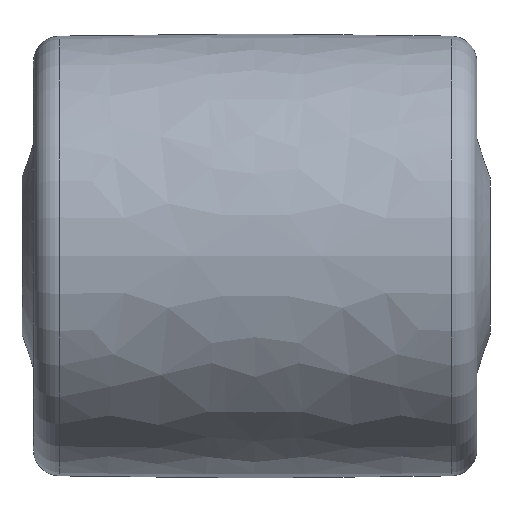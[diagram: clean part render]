
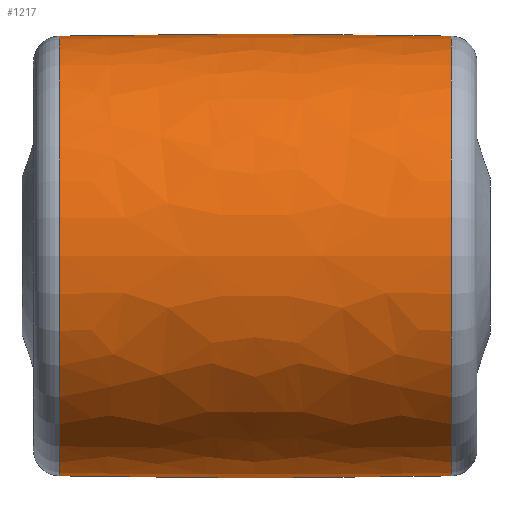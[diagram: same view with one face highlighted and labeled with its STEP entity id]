
A CAD part, top view. The second image highlights one B-rep face of the part: STEP entity #1217.
In plain terms, the highlighted free-form (B-spline) face has degree [2, 2] with [3, 9] control points.
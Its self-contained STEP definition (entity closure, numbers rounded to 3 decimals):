
#49=(
BOUNDED_SURFACE()
B_SPLINE_SURFACE(2,2,((#2129,#2130,#2131,#2132,#2133,#2134,#2135,#2136,
#2137),(#2138,#2139,#2140,#2141,#2142,#2143,#2144,#2145,#2146),(#2147,#2148,
#2149,#2150,#2151,#2152,#2153,#2154,#2155)),.UNSPECIFIED.,.F.,.T.,.F.)
B_SPLINE_SURFACE_WITH_KNOTS((3,3),(3,2,2,2,3),(-0.019,0.019),
(-3.142,-1.571,0.,1.571,3.142),
 .UNSPECIFIED.)
GEOMETRIC_REPRESENTATION_ITEM()
RATIONAL_B_SPLINE_SURFACE(((1.,0.707,1.,0.707,1.,
0.707,1.,0.707,1.),(1.,0.707,
1.,0.707,1.,0.707,
1.,0.707,1.),(1.,0.707,
1.,0.707,1.,0.707,1.,0.707,1.)))
REPRESENTATION_ITEM('')
SURFACE()
);
#173=FACE_OUTER_BOUND('',#251,.T.);
#251=EDGE_LOOP('',(#924,#925,#926,#927,#928,#929));
#421=CIRCLE('',#1391,42.147);
#422=CIRCLE('',#1392,42.147);
#424=CIRCLE('',#1394,42.147);
#425=CIRCLE('',#1395,42.147);
#426=CIRCLE('',#1396,2000.);
#557=VERTEX_POINT('',#2124);
#558=VERTEX_POINT('',#2125);
#559=VERTEX_POINT('',#2156);
#560=VERTEX_POINT('',#2157);
#710=EDGE_CURVE('',#557,#558,#421,.T.);
#711=EDGE_CURVE('',#558,#557,#422,.T.);
#713=EDGE_CURVE('',#559,#560,#424,.T.);
#714=EDGE_CURVE('',#560,#559,#425,.T.);
#715=EDGE_CURVE('',#560,#558,#426,.T.);
#924=ORIENTED_EDGE('',*,*,#713,.F.);
#925=ORIENTED_EDGE('',*,*,#714,.F.);
#926=ORIENTED_EDGE('',*,*,#715,.T.);
#927=ORIENTED_EDGE('',*,*,#711,.T.);
#928=ORIENTED_EDGE('',*,*,#710,.T.);
#929=ORIENTED_EDGE('',*,*,#715,.F.);
#1217=ADVANCED_FACE('',(#173),#49,.F.);
#1391=AXIS2_PLACEMENT_3D('',#2126,#1671,#1672);
#1392=AXIS2_PLACEMENT_3D('',#2127,#1673,#1674);
#1394=AXIS2_PLACEMENT_3D('',#2158,#1677,#1678);
#1395=AXIS2_PLACEMENT_3D('',#2159,#1679,#1680);
#1396=AXIS2_PLACEMENT_3D('',#2160,#1681,#1682);
#1671=DIRECTION('center_axis',(1.,0.,0.));
#1672=DIRECTION('ref_axis',(0.,0.,-1.));
#1673=DIRECTION('center_axis',(1.,0.,0.));
#1674=DIRECTION('ref_axis',(0.,0.,-1.));
#1677=DIRECTION('center_axis',(1.,0.,0.));
#1678=DIRECTION('ref_axis',(0.,0.,-1.));
#1679=DIRECTION('center_axis',(1.,0.,0.));
#1680=DIRECTION('ref_axis',(0.,0.,-1.));
#1681=DIRECTION('center_axis',(0.,-1.,0.));
#1682=DIRECTION('ref_axis',(0.,0.,
1.));
#2124=CARTESIAN_POINT('',(4.906,0.,-42.147));
#2125=CARTESIAN_POINT('',(4.906,0.,42.147));
#2126=CARTESIAN_POINT('Origin',(4.906,0.,0.));
#2127=CARTESIAN_POINT('Origin',(4.906,0.,0.));
#2129=CARTESIAN_POINT('Ctrl Pts',(4.906,0.,42.147));
#2130=CARTESIAN_POINT('Ctrl Pts',(4.906,-42.147,42.147));
#2131=CARTESIAN_POINT('Ctrl Pts',(4.906,-42.147,0.));
#2132=CARTESIAN_POINT('Ctrl Pts',(4.906,-42.147,-42.147));
#2133=CARTESIAN_POINT('Ctrl Pts',(4.906,0.,-42.147));
#2134=CARTESIAN_POINT('Ctrl Pts',(4.906,42.147,-42.147));
#2135=CARTESIAN_POINT('Ctrl Pts',(4.906,42.147,0.));
#2136=CARTESIAN_POINT('Ctrl Pts',(4.906,42.147,42.147));
#2137=CARTESIAN_POINT('Ctrl Pts',(4.906,0.,42.147));
#2138=CARTESIAN_POINT('Ctrl Pts',(42.5,0.,42.853));
#2139=CARTESIAN_POINT('Ctrl Pts',(42.5,-42.853,42.853));
#2140=CARTESIAN_POINT('Ctrl Pts',(42.5,-42.853,0.));
#2141=CARTESIAN_POINT('Ctrl Pts',(42.5,-42.853,-42.853));
#2142=CARTESIAN_POINT('Ctrl Pts',(42.5,0.,-42.853));
#2143=CARTESIAN_POINT('Ctrl Pts',(42.5,42.853,-42.853));
#2144=CARTESIAN_POINT('Ctrl Pts',(42.5,42.853,0.));
#2145=CARTESIAN_POINT('Ctrl Pts',(42.5,42.853,42.853));
#2146=CARTESIAN_POINT('Ctrl Pts',(42.5,0.,42.853));
#2147=CARTESIAN_POINT('Ctrl Pts',(80.094,0.,42.147));
#2148=CARTESIAN_POINT('Ctrl Pts',(80.094,-42.147,42.147));
#2149=CARTESIAN_POINT('Ctrl Pts',(80.094,-42.147,0.));
#2150=CARTESIAN_POINT('Ctrl Pts',(80.094,-42.147,-42.147));
#2151=CARTESIAN_POINT('Ctrl Pts',(80.094,0.,-42.147));
#2152=CARTESIAN_POINT('Ctrl Pts',(80.094,42.147,-42.147));
#2153=CARTESIAN_POINT('Ctrl Pts',(80.094,42.147,0.));
#2154=CARTESIAN_POINT('Ctrl Pts',(80.094,42.147,42.147));
#2155=CARTESIAN_POINT('Ctrl Pts',(80.094,0.,42.147));
#2156=CARTESIAN_POINT('',(80.094,0.,-42.147));
#2157=CARTESIAN_POINT('',(80.094,0.,42.147));
#2158=CARTESIAN_POINT('Origin',(80.094,0.,0.));
#2159=CARTESIAN_POINT('Origin',(80.094,0.,0.));
#2160=CARTESIAN_POINT('Origin',(42.5,0.,-1957.5));
